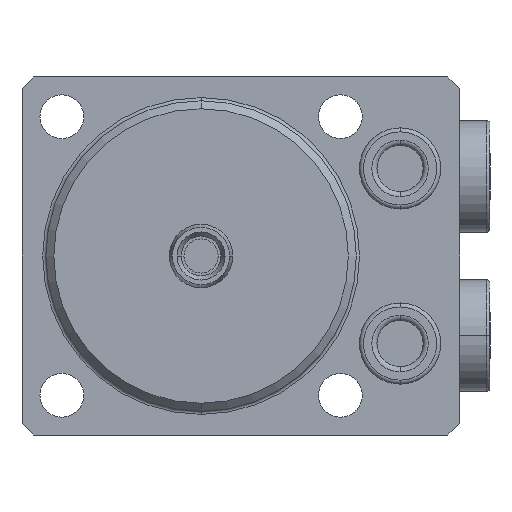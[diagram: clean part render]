
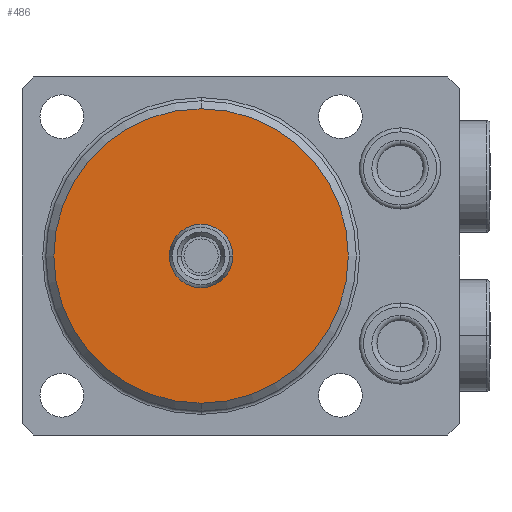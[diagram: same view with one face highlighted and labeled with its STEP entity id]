
A CAD part, front view. The second image highlights one B-rep face of the part: STEP entity #486.
In plain terms, the highlighted planar face has unit normal (0, -1, 0) as drawn and (0, 1, 0) by its records, which use the part's own axes.
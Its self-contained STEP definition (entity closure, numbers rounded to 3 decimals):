
#216=PLANE('',#5029);
#332=FACE_BOUND('',#1161,.F.);
#333=FACE_BOUND('',#1162,.F.);
#486=ADVANCED_FACE('',(#332,#333),#216,.T.);
#1161=EDGE_LOOP('',(#2085,#2086));
#1162=EDGE_LOOP('',(#2087,#2088));
#1445=CIRCLE('',#4901,4.);
#1500=CIRCLE('',#4979,18.5);
#1528=CIRCLE('',#5027,4.);
#1529=CIRCLE('',#5028,18.5);
#2085=ORIENTED_EDGE('',*,*,#3792,.T.);
#2086=ORIENTED_EDGE('',*,*,#3592,.T.);
#2087=ORIENTED_EDGE('',*,*,#3793,.T.);
#2088=ORIENTED_EDGE('',*,*,#3680,.T.);
#3142=VERTEX_POINT('',#7160);
#3143=VERTEX_POINT('',#7161);
#3214=VERTEX_POINT('',#7348);
#3215=VERTEX_POINT('',#7349);
#3592=EDGE_CURVE('',#3142,#3143,#1445,.T.);
#3680=EDGE_CURVE('',#3214,#3215,#1500,.T.);
#3792=EDGE_CURVE('',#3143,#3142,#1528,.T.);
#3793=EDGE_CURVE('',#3215,#3214,#1529,.T.);
#4901=AXIS2_PLACEMENT_3D('',#7159,#5577,#5578);
#4979=AXIS2_PLACEMENT_3D('',#7347,#5765,#5766);
#5027=AXIS2_PLACEMENT_3D('',#7650,#5919,#5920);
#5028=AXIS2_PLACEMENT_3D('',#7651,#5921,#5922);
#5029=AXIS2_PLACEMENT_3D('',#7652,#5923,#5924);
#5577=DIRECTION('',(0.,1.,0.));
#5578=DIRECTION('',(0.,0.,1.));
#5765=DIRECTION('',(0.,-1.,0.));
#5766=DIRECTION('',(0.,0.,1.));
#5919=DIRECTION('',(0.,1.,0.));
#5920=DIRECTION('',(0.,0.,1.));
#5921=DIRECTION('',(0.,-1.,0.));
#5922=DIRECTION('',(0.,0.,1.));
#5923=DIRECTION('',(0.,1.,0.));
#5924=DIRECTION('',(0.,0.,1.));
#7159=CARTESIAN_POINT('',(0.,-33.5,0.));
#7160=CARTESIAN_POINT('',(0.,-33.5,-4.));
#7161=CARTESIAN_POINT('',(0.,-33.5,4.));
#7347=CARTESIAN_POINT('',(0.,-33.5,0.));
#7348=CARTESIAN_POINT('',(0.,-33.5,-18.5));
#7349=CARTESIAN_POINT('',(0.,-33.5,18.5));
#7650=CARTESIAN_POINT('',(0.,-33.5,0.));
#7651=CARTESIAN_POINT('',(0.,-33.5,0.));
#7652=CARTESIAN_POINT('',(0.,-33.5,0.));
